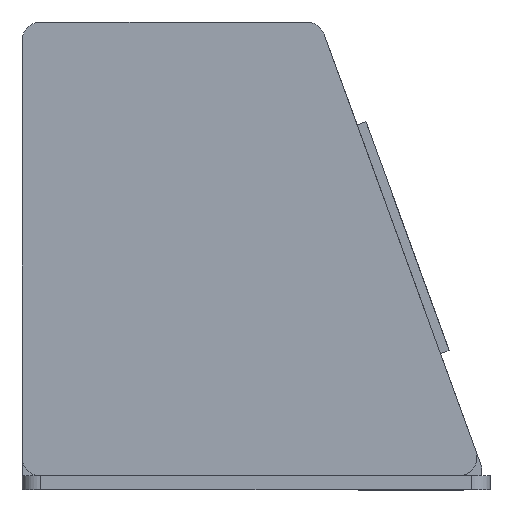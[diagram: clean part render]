
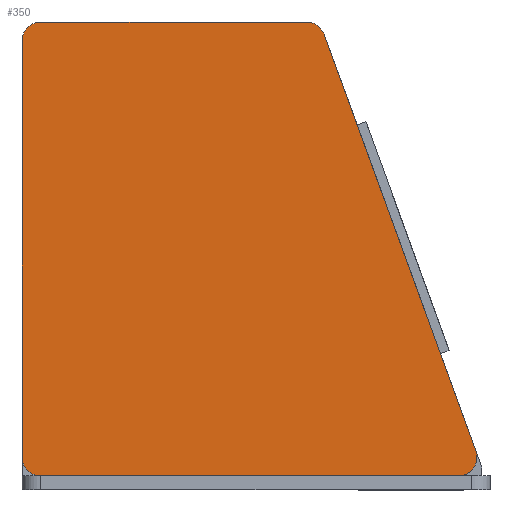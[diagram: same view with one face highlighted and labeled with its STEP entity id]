
A CAD part, left-side view. The second image highlights one B-rep face of the part: STEP entity #350.
In plain terms, the highlighted planar face has unit normal (-1, 0, 0).
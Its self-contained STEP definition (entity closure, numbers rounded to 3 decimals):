
#55 = EDGE_CURVE('',#56,#58,#60,.T.);
#56 = VERTEX_POINT('',#57);
#57 = CARTESIAN_POINT('',(-75.,6.805,3.));
#58 = VERTEX_POINT('',#59);
#59 = CARTESIAN_POINT('',(-75.,96.,3.));
#60 = SURFACE_CURVE('',#61,(#65,#77),.PCURVE_S1.);
#61 = LINE('',#62,#63);
#62 = CARTESIAN_POINT('',(-75.,1.092,3.));
#63 = VECTOR('',#64,1.);
#64 = DIRECTION('',(0.,1.,0.));
#65 = PCURVE('',#66,#71);
#66 = PLANE('',#67);
#67 = AXIS2_PLACEMENT_3D('',#68,#69,#70);
#68 = CARTESIAN_POINT('',(-75.,1.092,3.));
#69 = DIRECTION('',(0.,0.,1.));
#70 = DIRECTION('',(0.,1.,0.));
#71 = DEFINITIONAL_REPRESENTATION('',(#72),#76);
#72 = LINE('',#73,#74);
#73 = CARTESIAN_POINT('',(0.,0.));
#74 = VECTOR('',#75,1.);
#75 = DIRECTION('',(1.,0.));
#76 = ( GEOMETRIC_REPRESENTATION_CONTEXT(2) 
PARAMETRIC_REPRESENTATION_CONTEXT() REPRESENTATION_CONTEXT('2D SPACE',''
  ) );
#77 = PCURVE('',#78,#83);
#78 = PLANE('',#79);
#79 = AXIS2_PLACEMENT_3D('',#80,#81,#82);
#80 = CARTESIAN_POINT('',(-75.,57.816,46.779));
#81 = DIRECTION('',(1.,0.,0.));
#82 = DIRECTION('',(-0.,0.,1.));
#83 = DEFINITIONAL_REPRESENTATION('',(#84),#88);
#84 = LINE('',#85,#86);
#85 = CARTESIAN_POINT('',(-43.779,56.724));
#86 = VECTOR('',#87,1.);
#87 = DIRECTION('',(0.,-1.));
#88 = ( GEOMETRIC_REPRESENTATION_CONTEXT(2) 
PARAMETRIC_REPRESENTATION_CONTEXT() REPRESENTATION_CONTEXT('2D SPACE',''
  ) );
#106 = CYLINDRICAL_SURFACE('',#107,4.);
#107 = AXIS2_PLACEMENT_3D('',#108,#109,#110);
#108 = CARTESIAN_POINT('',(-75.,6.805,7.));
#109 = DIRECTION('',(1.,0.,0.));
#110 = DIRECTION('',(0.,0.,-1.));
#269 = CYLINDRICAL_SURFACE('',#270,4.);
#270 = AXIS2_PLACEMENT_3D('',#271,#272,#273);
#271 = CARTESIAN_POINT('',(-75.,96.,7.));
#272 = DIRECTION('',(1.,0.,0.));
#273 = DIRECTION('',(0.,0.,-1.));
#350 = ADVANCED_FACE('',(#351),#78,.F.);
#351 = FACE_BOUND('',#352,.F.);
#352 = EDGE_LOOP('',(#353,#354,#378,#406,#435,#463,#492,#520));
#353 = ORIENTED_EDGE('',*,*,#55,.T.);
#354 = ORIENTED_EDGE('',*,*,#355,.T.);
#355 = EDGE_CURVE('',#58,#356,#358,.T.);
#356 = VERTEX_POINT('',#357);
#357 = CARTESIAN_POINT('',(-75.,100.,7.));
#358 = SURFACE_CURVE('',#359,(#364,#371),.PCURVE_S1.);
#359 = CIRCLE('',#360,4.);
#360 = AXIS2_PLACEMENT_3D('',#361,#362,#363);
#361 = CARTESIAN_POINT('',(-75.,96.,7.));
#362 = DIRECTION('',(1.,0.,0.));
#363 = DIRECTION('',(-0.,0.,1.));
#364 = PCURVE('',#78,#365);
#365 = DEFINITIONAL_REPRESENTATION('',(#366),#370);
#366 = CIRCLE('',#367,4.);
#367 = AXIS2_PLACEMENT_2D('',#368,#369);
#368 = CARTESIAN_POINT('',(-39.779,-38.184));
#369 = DIRECTION('',(1.,0.));
#370 = ( GEOMETRIC_REPRESENTATION_CONTEXT(2) 
PARAMETRIC_REPRESENTATION_CONTEXT() REPRESENTATION_CONTEXT('2D SPACE',''
  ) );
#371 = PCURVE('',#269,#372);
#372 = DEFINITIONAL_REPRESENTATION('',(#373),#377);
#373 = LINE('',#374,#375);
#374 = CARTESIAN_POINT('',(-3.142,0.));
#375 = VECTOR('',#376,1.);
#376 = DIRECTION('',(1.,0.));
#377 = ( GEOMETRIC_REPRESENTATION_CONTEXT(2) 
PARAMETRIC_REPRESENTATION_CONTEXT() REPRESENTATION_CONTEXT('2D SPACE',''
  ) );
#378 = ORIENTED_EDGE('',*,*,#379,.T.);
#379 = EDGE_CURVE('',#356,#380,#382,.T.);
#380 = VERTEX_POINT('',#381);
#381 = CARTESIAN_POINT('',(-75.,100.,96.));
#382 = SURFACE_CURVE('',#383,(#387,#394),.PCURVE_S1.);
#383 = LINE('',#384,#385);
#384 = CARTESIAN_POINT('',(-75.,100.,3.));
#385 = VECTOR('',#386,1.);
#386 = DIRECTION('',(0.,0.,1.));
#387 = PCURVE('',#78,#388);
#388 = DEFINITIONAL_REPRESENTATION('',(#389),#393);
#389 = LINE('',#390,#391);
#390 = CARTESIAN_POINT('',(-43.779,-42.184));
#391 = VECTOR('',#392,1.);
#392 = DIRECTION('',(1.,0.));
#393 = ( GEOMETRIC_REPRESENTATION_CONTEXT(2) 
PARAMETRIC_REPRESENTATION_CONTEXT() REPRESENTATION_CONTEXT('2D SPACE',''
  ) );
#394 = PCURVE('',#395,#400);
#395 = PLANE('',#396);
#396 = AXIS2_PLACEMENT_3D('',#397,#398,#399);
#397 = CARTESIAN_POINT('',(-75.,100.,3.));
#398 = DIRECTION('',(0.,-1.,0.));
#399 = DIRECTION('',(0.,0.,1.));
#400 = DEFINITIONAL_REPRESENTATION('',(#401),#405);
#401 = LINE('',#402,#403);
#402 = CARTESIAN_POINT('',(0.,0.));
#403 = VECTOR('',#404,1.);
#404 = DIRECTION('',(1.,0.));
#405 = ( GEOMETRIC_REPRESENTATION_CONTEXT(2) 
PARAMETRIC_REPRESENTATION_CONTEXT() REPRESENTATION_CONTEXT('2D SPACE',''
  ) );
#406 = ORIENTED_EDGE('',*,*,#407,.T.);
#407 = EDGE_CURVE('',#380,#408,#410,.T.);
#408 = VERTEX_POINT('',#409);
#409 = CARTESIAN_POINT('',(-75.,96.,100.));
#410 = SURFACE_CURVE('',#411,(#416,#423),.PCURVE_S1.);
#411 = CIRCLE('',#412,4.);
#412 = AXIS2_PLACEMENT_3D('',#413,#414,#415);
#413 = CARTESIAN_POINT('',(-75.,96.,96.));
#414 = DIRECTION('',(1.,0.,0.));
#415 = DIRECTION('',(-0.,0.,1.));
#416 = PCURVE('',#78,#417);
#417 = DEFINITIONAL_REPRESENTATION('',(#418),#422);
#418 = CIRCLE('',#419,4.);
#419 = AXIS2_PLACEMENT_2D('',#420,#421);
#420 = CARTESIAN_POINT('',(49.221,-38.184));
#421 = DIRECTION('',(1.,0.));
#422 = ( GEOMETRIC_REPRESENTATION_CONTEXT(2) 
PARAMETRIC_REPRESENTATION_CONTEXT() REPRESENTATION_CONTEXT('2D SPACE',''
  ) );
#423 = PCURVE('',#424,#429);
#424 = CYLINDRICAL_SURFACE('',#425,4.);
#425 = AXIS2_PLACEMENT_3D('',#426,#427,#428);
#426 = CARTESIAN_POINT('',(-75.,96.,96.));
#427 = DIRECTION('',(1.,0.,0.));
#428 = DIRECTION('',(-0.,1.,0.));
#429 = DEFINITIONAL_REPRESENTATION('',(#430),#434);
#430 = LINE('',#431,#432);
#431 = CARTESIAN_POINT('',(-4.712,0.));
#432 = VECTOR('',#433,1.);
#433 = DIRECTION('',(1.,0.));
#434 = ( GEOMETRIC_REPRESENTATION_CONTEXT(2) 
PARAMETRIC_REPRESENTATION_CONTEXT() REPRESENTATION_CONTEXT('2D SPACE',''
  ) );
#435 = ORIENTED_EDGE('',*,*,#436,.T.);
#436 = EDGE_CURVE('',#408,#437,#439,.T.);
#437 = VERTEX_POINT('',#438);
#438 = CARTESIAN_POINT('',(-75.,39.198,100.));
#439 = SURFACE_CURVE('',#440,(#444,#451),.PCURVE_S1.);
#440 = LINE('',#441,#442);
#441 = CARTESIAN_POINT('',(-75.,100.,100.));
#442 = VECTOR('',#443,1.);
#443 = DIRECTION('',(0.,-1.,0.));
#444 = PCURVE('',#78,#445);
#445 = DEFINITIONAL_REPRESENTATION('',(#446),#450);
#446 = LINE('',#447,#448);
#447 = CARTESIAN_POINT('',(53.221,-42.184));
#448 = VECTOR('',#449,1.);
#449 = DIRECTION('',(0.,1.));
#450 = ( GEOMETRIC_REPRESENTATION_CONTEXT(2) 
PARAMETRIC_REPRESENTATION_CONTEXT() REPRESENTATION_CONTEXT('2D SPACE',''
  ) );
#451 = PCURVE('',#452,#457);
#452 = PLANE('',#453);
#453 = AXIS2_PLACEMENT_3D('',#454,#455,#456);
#454 = CARTESIAN_POINT('',(-75.,100.,100.));
#455 = DIRECTION('',(0.,0.,-1.));
#456 = DIRECTION('',(0.,-1.,0.));
#457 = DEFINITIONAL_REPRESENTATION('',(#458),#462);
#458 = LINE('',#459,#460);
#459 = CARTESIAN_POINT('',(0.,-0.));
#460 = VECTOR('',#461,1.);
#461 = DIRECTION('',(1.,0.));
#462 = ( GEOMETRIC_REPRESENTATION_CONTEXT(2) 
PARAMETRIC_REPRESENTATION_CONTEXT() REPRESENTATION_CONTEXT('2D SPACE',''
  ) );
#463 = ORIENTED_EDGE('',*,*,#464,.T.);
#464 = EDGE_CURVE('',#437,#465,#467,.T.);
#465 = VERTEX_POINT('',#466);
#466 = CARTESIAN_POINT('',(-75.,35.439,97.368));
#467 = SURFACE_CURVE('',#468,(#473,#480),.PCURVE_S1.);
#468 = CIRCLE('',#469,4.);
#469 = AXIS2_PLACEMENT_3D('',#470,#471,#472);
#470 = CARTESIAN_POINT('',(-75.,39.198,96.));
#471 = DIRECTION('',(1.,0.,0.));
#472 = DIRECTION('',(-0.,0.,1.));
#473 = PCURVE('',#78,#474);
#474 = DEFINITIONAL_REPRESENTATION('',(#475),#479);
#475 = CIRCLE('',#476,4.);
#476 = AXIS2_PLACEMENT_2D('',#477,#478);
#477 = CARTESIAN_POINT('',(49.221,18.618));
#478 = DIRECTION('',(1.,0.));
#479 = ( GEOMETRIC_REPRESENTATION_CONTEXT(2) 
PARAMETRIC_REPRESENTATION_CONTEXT() REPRESENTATION_CONTEXT('2D SPACE',''
  ) );
#480 = PCURVE('',#481,#486);
#481 = CYLINDRICAL_SURFACE('',#482,4.);
#482 = AXIS2_PLACEMENT_3D('',#483,#484,#485);
#483 = CARTESIAN_POINT('',(-75.,39.198,96.));
#484 = DIRECTION('',(1.,0.,0.));
#485 = DIRECTION('',(0.,-0.,1.));
#486 = DEFINITIONAL_REPRESENTATION('',(#487),#491);
#487 = LINE('',#488,#489);
#488 = CARTESIAN_POINT('',(0.,0.));
#489 = VECTOR('',#490,1.);
#490 = DIRECTION('',(1.,0.));
#491 = ( GEOMETRIC_REPRESENTATION_CONTEXT(2) 
PARAMETRIC_REPRESENTATION_CONTEXT() REPRESENTATION_CONTEXT('2D SPACE',''
  ) );
#492 = ORIENTED_EDGE('',*,*,#493,.T.);
#493 = EDGE_CURVE('',#465,#494,#496,.T.);
#494 = VERTEX_POINT('',#495);
#495 = CARTESIAN_POINT('',(-75.,3.046,8.368));
#496 = SURFACE_CURVE('',#497,(#501,#508),.PCURVE_S1.);
#497 = LINE('',#498,#499);
#498 = CARTESIAN_POINT('',(-75.,36.397,100.));
#499 = VECTOR('',#500,1.);
#500 = DIRECTION('',(0.,-0.342,-0.94));
#501 = PCURVE('',#78,#502);
#502 = DEFINITIONAL_REPRESENTATION('',(#503),#507);
#503 = LINE('',#504,#505);
#504 = CARTESIAN_POINT('',(53.221,21.419));
#505 = VECTOR('',#506,1.);
#506 = DIRECTION('',(-0.94,0.342));
#507 = ( GEOMETRIC_REPRESENTATION_CONTEXT(2) 
PARAMETRIC_REPRESENTATION_CONTEXT() REPRESENTATION_CONTEXT('2D SPACE',''
  ) );
#508 = PCURVE('',#509,#514);
#509 = PLANE('',#510);
#510 = AXIS2_PLACEMENT_3D('',#511,#512,#513);
#511 = CARTESIAN_POINT('',(-75.,36.397,100.));
#512 = DIRECTION('',(0.,0.94,-0.342));
#513 = DIRECTION('',(0.,-0.342,-0.94));
#514 = DEFINITIONAL_REPRESENTATION('',(#515),#519);
#515 = LINE('',#516,#517);
#516 = CARTESIAN_POINT('',(0.,0.));
#517 = VECTOR('',#518,1.);
#518 = DIRECTION('',(1.,0.));
#519 = ( GEOMETRIC_REPRESENTATION_CONTEXT(2) 
PARAMETRIC_REPRESENTATION_CONTEXT() REPRESENTATION_CONTEXT('2D SPACE',''
  ) );
#520 = ORIENTED_EDGE('',*,*,#521,.F.);
#521 = EDGE_CURVE('',#56,#494,#522,.T.);
#522 = SURFACE_CURVE('',#523,(#528,#539),.PCURVE_S1.);
#523 = CIRCLE('',#524,4.);
#524 = AXIS2_PLACEMENT_3D('',#525,#526,#527);
#525 = CARTESIAN_POINT('',(-75.,6.805,7.));
#526 = DIRECTION('',(-1.,0.,-0.));
#527 = DIRECTION('',(-0.,0.,1.));
#528 = PCURVE('',#78,#529);
#529 = DEFINITIONAL_REPRESENTATION('',(#530),#538);
#530 = ( BOUNDED_CURVE() B_SPLINE_CURVE(2,(#531,#532,#533,#534,#535,#536
,#537),.UNSPECIFIED.,.T.,.F.) B_SPLINE_CURVE_WITH_KNOTS((1,2,2,2,2,1),(
    -2.094,0.,2.094,4.189,6.283,
8.378),.UNSPECIFIED.) CURVE() GEOMETRIC_REPRESENTATION_ITEM() 
RATIONAL_B_SPLINE_CURVE((1.,0.5,1.,0.5,1.,0.5,1.)) REPRESENTATION_ITEM(
  '') );
#531 = CARTESIAN_POINT('',(-35.779,51.011));
#532 = CARTESIAN_POINT('',(-35.779,44.083));
#533 = CARTESIAN_POINT('',(-41.779,47.547));
#534 = CARTESIAN_POINT('',(-47.779,51.011));
#535 = CARTESIAN_POINT('',(-41.779,54.476));
#536 = CARTESIAN_POINT('',(-35.779,57.94));
#537 = CARTESIAN_POINT('',(-35.779,51.011));
#538 = ( GEOMETRIC_REPRESENTATION_CONTEXT(2) 
PARAMETRIC_REPRESENTATION_CONTEXT() REPRESENTATION_CONTEXT('2D SPACE',''
  ) );
#539 = PCURVE('',#106,#540);
#540 = DEFINITIONAL_REPRESENTATION('',(#541),#545);
#541 = LINE('',#542,#543);
#542 = CARTESIAN_POINT('',(3.142,-0.));
#543 = VECTOR('',#544,1.);
#544 = DIRECTION('',(-1.,0.));
#545 = ( GEOMETRIC_REPRESENTATION_CONTEXT(2) 
PARAMETRIC_REPRESENTATION_CONTEXT() REPRESENTATION_CONTEXT('2D SPACE',''
  ) );
